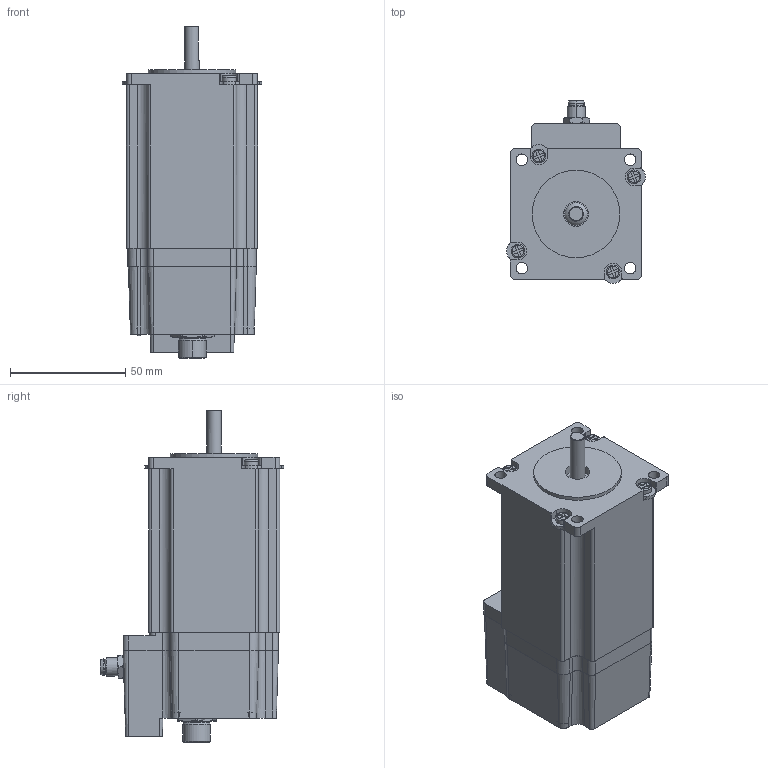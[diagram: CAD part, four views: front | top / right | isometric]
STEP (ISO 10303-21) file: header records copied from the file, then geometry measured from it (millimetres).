
FILE_DESCRIPTION(/* description */ ('Alibre Inc.'),/* implementation_level */ '2;1');
FILE_NAME(/* name */ 'export-0C40FF04-6D60-4676-B92A-DBE27484B06E',/* time_stamp */ '2025-12-10T14:04:45-05:00',/* author */ (''),/* organization */ (''),/* preprocessor_version */ 'ST-DEVELOPER v17',/* originating_system */ 'Alibre',/* authorisation */ '');
FILE_SCHEMA (('CONFIG_CONTROL_DESIGN'));
Length unit declared in the file: millimetre
Bounding box: 60.48 x 79.74 x 144.32 mm (x, y, z)
Volume: 339889.9 mm3; surface area: 43013.2 mm2
Topology: 1 solids, 27 shells, 742 faces, 1746 edges, 1126 vertices
Faces by surface type: plane 298, cylinder 275, bspline 64, cone 63, torus 34, sphere 8
Full cylindrical faces by diameter (mm): 1.1 x8, 1.5 x3, 2 x4, 2.156 x4, 2.87 x4, 2.92 x2, 3 x5, 3.556 x4, 5 x4, 5.44 x4, 6 x4, 6.35 x1, 7.938 x1, 8 x3, 10 x1, 10.795 x2, 12.7 x2, 23.495 x1, 26 x1, 38.1 x1
Entity records: 21392 total; most frequent: CARTESIAN_POINT 5222, ORIENTED_EDGE 3268, DIRECTION 3097, EDGE_CURVE 1634, AXIS2_PLACEMENT_3D 1317, VERTEX_POINT 1098, EDGE_LOOP 920, FACE_BOUND 920
